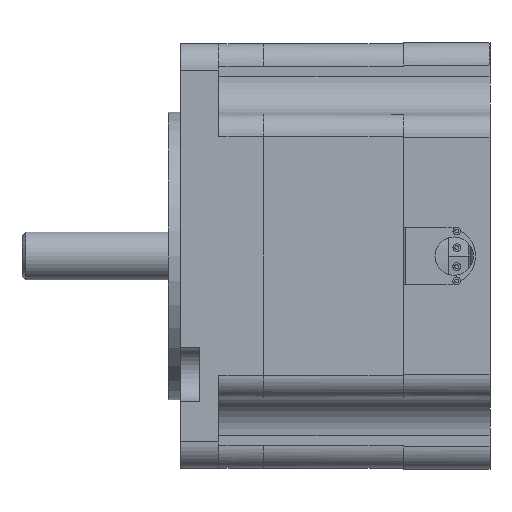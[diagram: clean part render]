
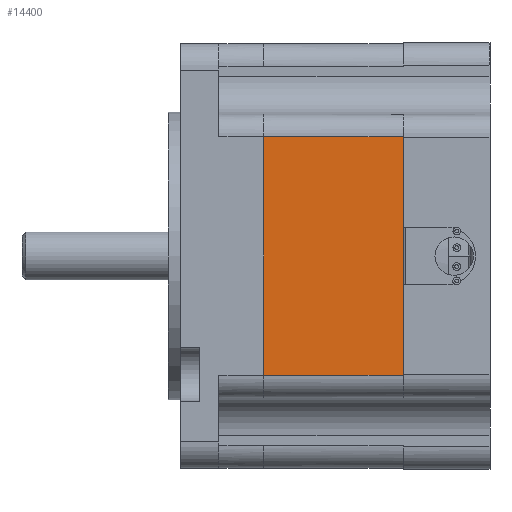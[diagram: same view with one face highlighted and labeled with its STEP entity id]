
A CAD part, front view. The second image highlights one B-rep face of the part: STEP entity #14400.
In plain terms, the highlighted planar face has unit normal (0, -1, 0).
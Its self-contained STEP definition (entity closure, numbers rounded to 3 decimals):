
#14306=CARTESIAN_POINT('',(29.494,-28.1,15.8));
#14307=VERTEX_POINT('',#14306);
#14336=CARTESIAN_POINT('',(11.,-28.1,15.8));
#14337=VERTEX_POINT('',#14336);
#14345=CARTESIAN_POINT('',(11.,-28.1,15.8));
#14346=DIRECTION('',(1.,0.,0.));
#14347=VECTOR('',#14346,18.494);
#14348=LINE('',#14345,#14347);
#14349=EDGE_CURVE('',#14337,#14307,#14348,.T.);
#14354=CARTESIAN_POINT('',(20.994,-28.1,0.));
#14355=DIRECTION('',(0.,0.,-1.));
#14356=DIRECTION('',(0.,-1.,0.));
#14357=AXIS2_PLACEMENT_3D('',#14354,#14356,#14355);
#14358=PLANE('',#14357);
#14359=CARTESIAN_POINT('',(29.494,-28.1,-15.8));
#14360=VERTEX_POINT('',#14359);
#14361=CARTESIAN_POINT('',(29.494,-28.1,-3.81));
#14362=VERTEX_POINT('',#14361);
#14363=CARTESIAN_POINT('',(29.494,-28.1,-15.8));
#14364=DIRECTION('',(0.,0.,1.));
#14365=VECTOR('',#14364,11.99);
#14366=LINE('',#14363,#14365);
#14367=EDGE_CURVE('',#14360,#14362,#14366,.T.);
#14368=ORIENTED_EDGE('E1498',*,*,#14367,.T.);
#14369=CARTESIAN_POINT('',(29.494,-28.1,3.81));
#14370=VERTEX_POINT('',#14369);
#14371=CARTESIAN_POINT('',(29.494,-28.1,-3.81));
#14372=DIRECTION('',(0.,0.,1.));
#14373=VECTOR('',#14372,7.62);
#14374=LINE('',#14371,#14373);
#14375=EDGE_CURVE('',#14362,#14370,#14374,.T.);
#14376=ORIENTED_EDGE('E1499',*,*,#14375,.T.);
#14377=CARTESIAN_POINT('',(29.494,-28.1,3.81));
#14378=DIRECTION('',(0.,0.,1.));
#14379=VECTOR('',#14378,11.99);
#14380=LINE('',#14377,#14379);
#14381=EDGE_CURVE('',#14370,#14307,#14380,.T.);
#14382=ORIENTED_EDGE('E1500',*,*,#14381,.T.);
#14383=ORIENTED_EDGE('E1500',*,*,#14349,.F.);
#14384=CARTESIAN_POINT('',(11.,-28.1,-15.8));
#14385=VERTEX_POINT('',#14384);
#14386=CARTESIAN_POINT('',(11.,-28.1,15.8));
#14387=DIRECTION('',(0.,0.,-1.));
#14388=VECTOR('',#14387,31.6);
#14389=LINE('',#14386,#14388);
#14390=EDGE_CURVE('',#14337,#14385,#14389,.T.);
#14391=ORIENTED_EDGE('E1501',*,*,#14390,.T.);
#14392=CARTESIAN_POINT('',(11.,-28.1,-15.8));
#14393=DIRECTION('',(1.,0.,0.));
#14394=VECTOR('',#14393,18.494);
#14395=LINE('',#14392,#14394);
#14396=EDGE_CURVE('',#14385,#14360,#14395,.T.);
#14397=ORIENTED_EDGE('E1502',*,*,#14396,.T.);
#14398=EDGE_LOOP('',(#14368,#14376,#14382,#14383,#14391,#14397));
#14399=FACE_OUTER_BOUND('',#14398,.T.);
#14400=ADVANCED_FACE('F218',(#14399),#14358,.T.);
